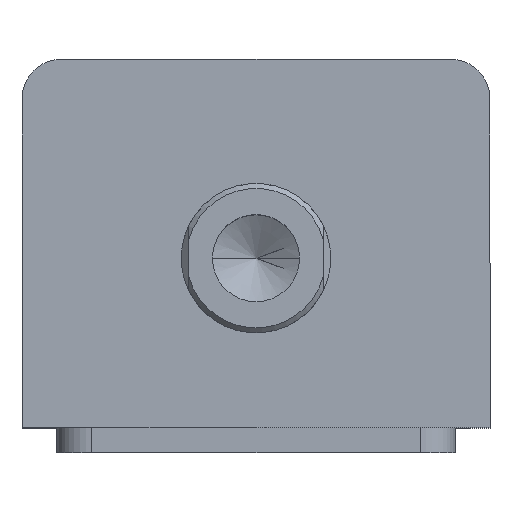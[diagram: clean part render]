
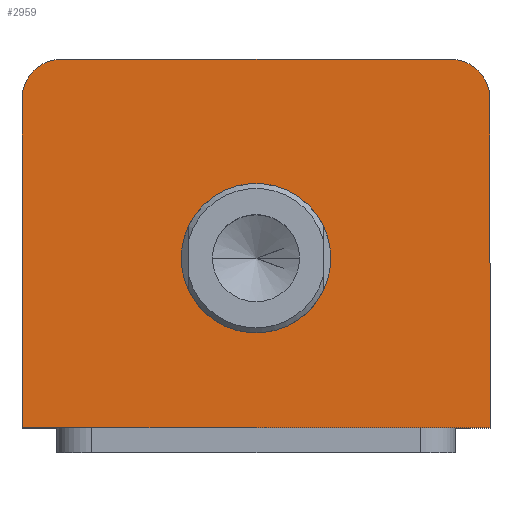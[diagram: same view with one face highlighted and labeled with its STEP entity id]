
A CAD part, top view. The second image highlights one B-rep face of the part: STEP entity #2959.
In plain terms, the highlighted planar face has unit normal (0, 0, 1).
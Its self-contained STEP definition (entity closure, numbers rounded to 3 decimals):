
#149 = CARTESIAN_POINT ( 'NONE',  ( 0., 0., 95. ) ) ;
#152 = PLANE ( 'NONE',  #1801 ) ;
#154 = DIRECTION ( 'NONE',  ( 0., 0., 1. ) ) ;
#155 = DIRECTION ( 'NONE',  ( 1., 0., 0. ) ) ;
#262 = CARTESIAN_POINT ( 'NONE',  ( 47., 37., 95. ) ) ;
#263 = DIRECTION ( 'NONE',  ( 0., 1., 0. ) ) ;
#294 = CARTESIAN_POINT ( 'NONE',  ( 0., -3., 95. ) ) ;
#295 = DIRECTION ( 'NONE',  ( 0., 0., 1. ) ) ;
#296 = DIRECTION ( 'NONE',  ( 1., 0., 0. ) ) ;
#454 = EDGE_CURVE ( 'NONE', #1105, #1104, #2311, .T. ) ;
#464 = EDGE_CURVE ( 'NONE', #1229, #1025, #2428, .T. ) ;
#477 = EDGE_CURVE ( 'NONE', #1025, #1105, #2448, .T. ) ;
#493 = EDGE_CURVE ( 'NONE', #1104, #1258, #2266, .T. ) ;
#501 = EDGE_CURVE ( 'NONE', #1258, #1222, #2249, .T. ) ;
#529 = EDGE_CURVE ( 'NONE', #1353, #1435, #2205, .T. ) ;
#609 = CARTESIAN_POINT ( 'NONE',  ( -47., 37., 95. ) ) ;
#612 = DIRECTION ( 'NONE',  ( 0., -1., 0. ) ) ;
#615 = DIRECTION ( 'NONE',  ( 1., 0., 0. ) ) ;
#617 = DIRECTION ( 'NONE',  ( 0., 0., 1. ) ) ;
#668 = DIRECTION ( 'NONE',  ( -1., 0., 0. ) ) ;
#674 = CARTESIAN_POINT ( 'NONE',  ( -47., 37., 95. ) ) ;
#680 = CARTESIAN_POINT ( 'NONE',  ( -39., 29., 95. ) ) ;
#683 = DIRECTION ( 'NONE',  ( 0., 0., 1. ) ) ;
#692 = CARTESIAN_POINT ( 'NONE',  ( 39., 29., 95. ) ) ;
#705 = DIRECTION ( 'NONE',  ( 1., 0., 0. ) ) ;
#762 = LINE ( 'NONE', #262, #765 ) ;
#765 = VECTOR ( 'NONE', #263, 1000. ) ;
#783 = CIRCLE ( 'NONE', #1834, 15. ) ;
#1025 = VERTEX_POINT ( 'NONE', #1510 ) ;
#1104 = VERTEX_POINT ( 'NONE', #1636 ) ;
#1105 = VERTEX_POINT ( 'NONE', #1635 ) ;
#1149 = FACE_BOUND ( 'NONE', #2786, .T. ) ;
#1222 = VERTEX_POINT ( 'NONE', #1630 ) ;
#1229 = VERTEX_POINT ( 'NONE', #1623 ) ;
#1258 = VERTEX_POINT ( 'NONE', #1587 ) ;
#1353 = VERTEX_POINT ( 'NONE', #2060 ) ;
#1435 = VERTEX_POINT ( 'NONE', #2068 ) ;
#1474 = EDGE_LOOP ( 'NONE', ( #2477, #2476, #2475, #2474, #2473, #2472 ) ) ;
#1510 = CARTESIAN_POINT ( 'NONE',  ( 39., 37., 95. ) ) ;
#1587 = CARTESIAN_POINT ( 'NONE',  ( -47., -37., 95. ) ) ;
#1623 = CARTESIAN_POINT ( 'NONE',  ( 47., 29., 95. ) ) ;
#1630 = CARTESIAN_POINT ( 'NONE',  ( 47., -37., 95. ) ) ;
#1635 = CARTESIAN_POINT ( 'NONE',  ( -39., 37., 95. ) ) ;
#1636 = CARTESIAN_POINT ( 'NONE',  ( -47., 29., 95. ) ) ;
#1678 = FACE_OUTER_BOUND ( 'NONE', #1474, .T. ) ;
#1801 = AXIS2_PLACEMENT_3D ( 'NONE', #149, #154, #155 ) ;
#1834 = AXIS2_PLACEMENT_3D ( 'NONE', #294, #295, #296 ) ;
#2060 = CARTESIAN_POINT ( 'NONE',  ( 15., -3., 95. ) ) ;
#2068 = CARTESIAN_POINT ( 'NONE',  ( -15., -3., 95. ) ) ;
#2205 = CIRCLE ( 'NONE', #2895, 15. ) ;
#2246 = VECTOR ( 'NONE', #2629, 1000. ) ;
#2249 = LINE ( 'NONE', #2666, #2246 ) ;
#2262 = VECTOR ( 'NONE', #612, 1000. ) ;
#2266 = LINE ( 'NONE', #609, #2262 ) ;
#2311 = CIRCLE ( 'NONE', #2862, 8. ) ;
#2428 = CIRCLE ( 'NONE', #2870, 8. ) ;
#2448 = LINE ( 'NONE', #674, #2483 ) ;
#2472 = ORIENTED_EDGE ( 'NONE', *, *, #464, .T. ) ;
#2473 = ORIENTED_EDGE ( 'NONE', *, *, #2995, .T. ) ;
#2474 = ORIENTED_EDGE ( 'NONE', *, *, #501, .T. ) ;
#2475 = ORIENTED_EDGE ( 'NONE', *, *, #493, .T. ) ;
#2476 = ORIENTED_EDGE ( 'NONE', *, *, #454, .T. ) ;
#2477 = ORIENTED_EDGE ( 'NONE', *, *, #477, .T. ) ;
#2478 = ORIENTED_EDGE ( 'NONE', *, *, #3007, .F. ) ;
#2479 = ORIENTED_EDGE ( 'NONE', *, *, #529, .F. ) ;
#2483 = VECTOR ( 'NONE', #668, 1000. ) ;
#2629 = DIRECTION ( 'NONE',  ( 1., 0., 0. ) ) ;
#2647 = DIRECTION ( 'NONE',  ( 1., 0., 0. ) ) ;
#2649 = DIRECTION ( 'NONE',  ( 0., 0., 1. ) ) ;
#2650 = CARTESIAN_POINT ( 'NONE',  ( 0., -3., 95. ) ) ;
#2666 = CARTESIAN_POINT ( 'NONE',  ( -47., -37., 95. ) ) ;
#2786 = EDGE_LOOP ( 'NONE', ( #2479, #2478 ) ) ;
#2862 = AXIS2_PLACEMENT_3D ( 'NONE', #680, #683, #705 ) ;
#2870 = AXIS2_PLACEMENT_3D ( 'NONE', #692, #617, #615 ) ;
#2895 = AXIS2_PLACEMENT_3D ( 'NONE', #2650, #2649, #2647 ) ;
#2959 = ADVANCED_FACE ( 'NONE', ( #1149, #1678 ), #152, .T. ) ;
#2995 = EDGE_CURVE ( 'NONE', #1222, #1229, #762, .T. ) ;
#3007 = EDGE_CURVE ( 'NONE', #1435, #1353, #783, .T. ) ;
